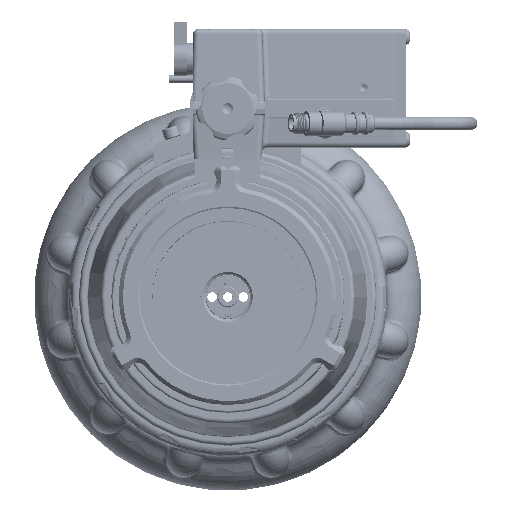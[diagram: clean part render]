
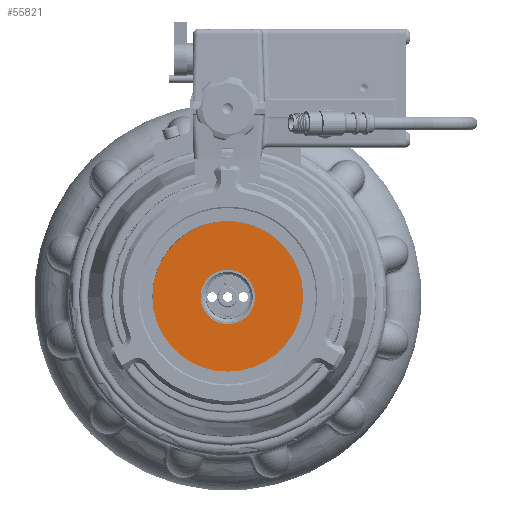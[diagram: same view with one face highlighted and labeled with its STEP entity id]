
A CAD part, top view. The second image highlights one B-rep face of the part: STEP entity #55821.
In plain terms, the highlighted planar face has unit normal (0, 0, 1).
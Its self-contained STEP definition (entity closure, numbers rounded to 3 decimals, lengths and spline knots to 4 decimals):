
#6922 = ORIENTED_EDGE ( 'NONE', *, *, #149994, .T. ) ;
#6928 = ORIENTED_EDGE ( 'NONE', *, *, #87315, .T. ) ;
#6934 = ORIENTED_EDGE ( 'NONE', *, *, #87316, .F. ) ;
#6941 = ORIENTED_EDGE ( 'NONE', *, *, #150656, .F. ) ;
#8207 = CARTESIAN_POINT ( 'NONE',  ( 0., 0., -5.0745 ) ) ;
#8208 = DIRECTION ( 'NONE',  ( 0., 0., 1. ) ) ;
#8209 = DIRECTION ( 'NONE',  ( -1., 0., 0. ) ) ;
#8210 = CARTESIAN_POINT ( 'NONE',  ( 0., 0., -5.0745 ) ) ;
#8211 = DIRECTION ( 'NONE',  ( 0., 0., 1. ) ) ;
#8212 = DIRECTION ( 'NONE',  ( -1., 0., 0. ) ) ;
#36713 = CARTESIAN_POINT ( 'NONE',  ( -0.6325, 0., -5.0745 ) ) ;
#36719 = CARTESIAN_POINT ( 'NONE',  ( 0.6325, 0., -5.0745 ) ) ;
#36860 = CARTESIAN_POINT ( 'NONE',  ( -2.06, 0., -5.0745 ) ) ;
#36875 = CARTESIAN_POINT ( 'NONE',  ( 2.06, 0., -5.0745 ) ) ;
#46158 = CIRCLE ( 'NONE', #108215, 0.6325 ) ;
#46160 = CIRCLE ( 'NONE', #108214, 2.06 ) ;
#55821 = ADVANCED_FACE ( 'NONE', ( #89323, #89314 ), #92502, .T. ) ;
#72010 = EDGE_LOOP ( 'NONE', ( #6934, #6941 ) ) ;
#72011 = EDGE_LOOP ( 'NONE', ( #6922, #6928 ) ) ;
#87315 = EDGE_CURVE ( 'NONE', #138701, #138681, #46160, .T. ) ;
#87316 = EDGE_CURVE ( 'NONE', #138480, #138488, #46158, .T. ) ;
#89314 = FACE_BOUND ( 'NONE', #72010, .T. ) ;
#89323 = FACE_OUTER_BOUND ( 'NONE', #72011, .T. ) ;
#92496 = CARTESIAN_POINT ( 'NONE',  ( 0., 0.6325, -5.0745 ) ) ;
#92502 = PLANE ( 'NONE',  #177152 ) ;
#92505 = DIRECTION ( 'NONE',  ( 0., 0., 1. ) ) ;
#92507 = DIRECTION ( 'NONE',  ( -1., 0., 0. ) ) ;
#103691 = CIRCLE ( 'NONE', #135738, 2.06 ) ;
#103957 = CIRCLE ( 'NONE', #136005, 0.6325 ) ;
#108214 = AXIS2_PLACEMENT_3D ( 'NONE', #8207, #8208, #8209 ) ;
#108215 = AXIS2_PLACEMENT_3D ( 'NONE', #8210, #8211, #8212 ) ;
#135226 = CARTESIAN_POINT ( 'NONE',  ( 0., 0., -5.0745 ) ) ;
#135228 = DIRECTION ( 'NONE',  ( 0., 0., 1. ) ) ;
#135229 = DIRECTION ( 'NONE',  ( -1., 0., 0. ) ) ;
#135738 = AXIS2_PLACEMENT_3D ( 'NONE', #135226, #135228, #135229 ) ;
#136005 = AXIS2_PLACEMENT_3D ( 'NONE', #136228, #136231, #136234 ) ;
#136228 = CARTESIAN_POINT ( 'NONE',  ( 0., 0., -5.0745 ) ) ;
#136231 = DIRECTION ( 'NONE',  ( 0., 0., 1. ) ) ;
#136234 = DIRECTION ( 'NONE',  ( -1., 0., 0. ) ) ;
#138480 = VERTEX_POINT ( 'NONE', #36713 ) ;
#138488 = VERTEX_POINT ( 'NONE', #36719 ) ;
#138681 = VERTEX_POINT ( 'NONE', #36860 ) ;
#138701 = VERTEX_POINT ( 'NONE', #36875 ) ;
#149994 = EDGE_CURVE ( 'NONE', #138681, #138701, #103691, .T. ) ;
#150656 = EDGE_CURVE ( 'NONE', #138488, #138480, #103957, .T. ) ;
#177152 = AXIS2_PLACEMENT_3D ( 'NONE', #92496, #92505, #92507 ) ;
